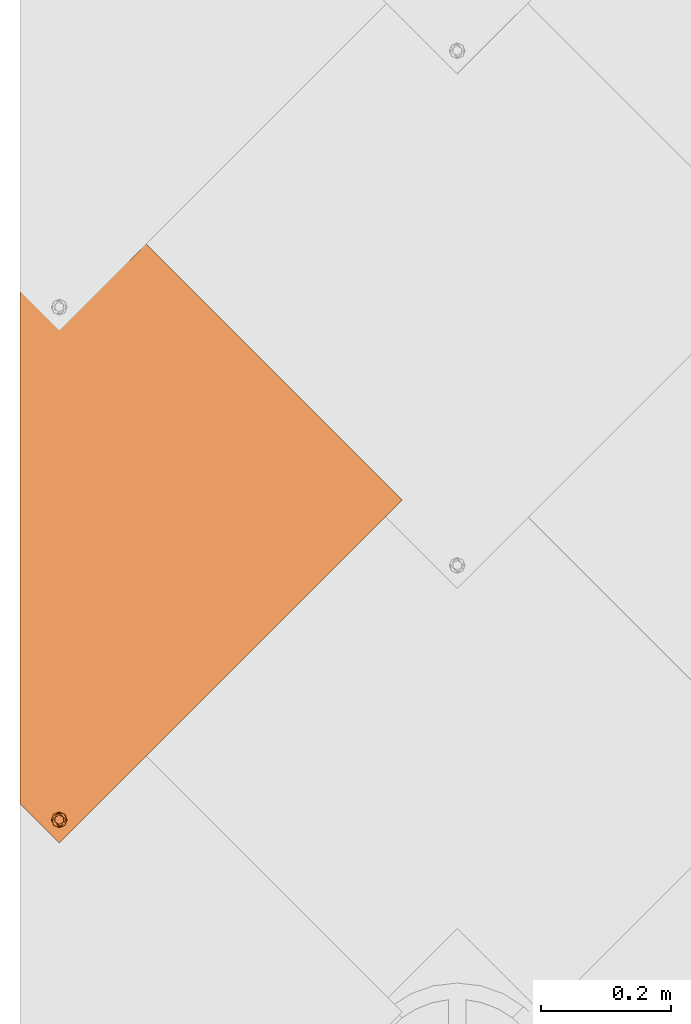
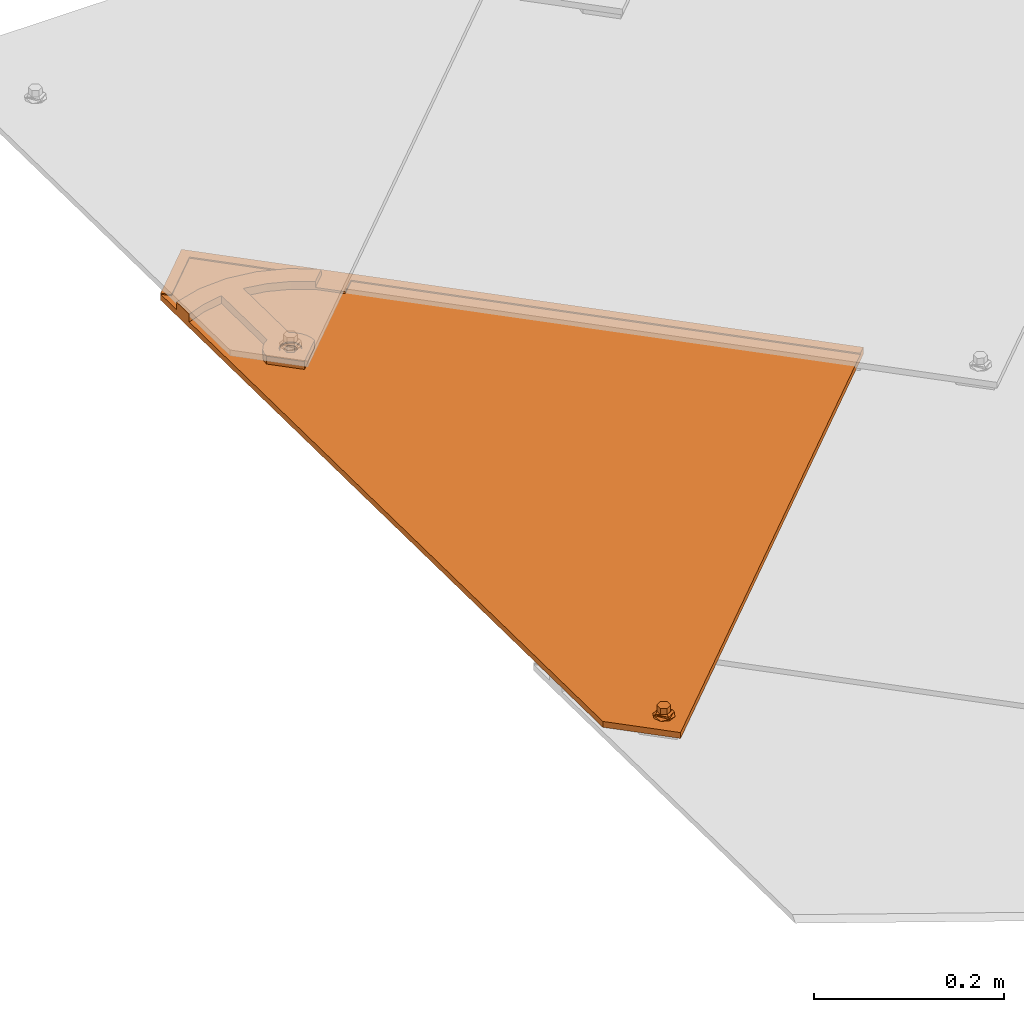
# One storey, part 79 of 151: 1 proxy.
"""IFC2X3 building model written with IfcOpenShell, lengths in millimetres."""

from ifc_helpers import new_model, entity, si_unit, converted_unit, derived_unit, direction, frame, origin, place, context, subcontext, project, spatial, faceted_brep, source, transform, mapped, material, material_list, type_object, type_shapes, element, save


model = new_model("IFC2X3")

# Units and contexts
model_context = context("Model", 3, precision=0.01, world=origin(), true_north=direction((6.12303176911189e-17, 1.0)))
body_context = subcontext(model_context, "Body", "Model", "MODEL_VIEW")
ifc_project = project(units=[si_unit("LENGTHUNIT", "METRE", prefix="MILLI"), si_unit("AREAUNIT", "SQUARE_METRE"), si_unit("VOLUMEUNIT", "CUBIC_METRE"), converted_unit("PLANEANGLEUNIT", "DEGREE", entity("IfcRatioMeasure", 0.0174532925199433), si_unit("PLANEANGLEUNIT", "RADIAN"), dimensions=[0, 0, 0, 0, 0, 0, 0]), si_unit("MASSUNIT", "GRAM", prefix="KILO"), derived_unit("MASSDENSITYUNIT", [(si_unit("MASSUNIT", "GRAM", prefix="KILO"), 1), (si_unit("LENGTHUNIT", "METRE"), -3)]), si_unit("TIMEUNIT", "SECOND"), si_unit("FREQUENCYUNIT", "HERTZ"), si_unit("THERMODYNAMICTEMPERATUREUNIT", "DEGREE_CELSIUS"), derived_unit("THERMALTRANSMITTANCEUNIT", [(si_unit("MASSUNIT", "GRAM", prefix="KILO"), 1), (si_unit("THERMODYNAMICTEMPERATUREUNIT", "KELVIN"), -1), (si_unit("TIMEUNIT", "SECOND"), -3)]), derived_unit("VOLUMETRICFLOWRATEUNIT", [(si_unit("LENGTHUNIT", "METRE"), 3), (si_unit("TIMEUNIT", "SECOND"), -1)]), si_unit("ELECTRICCURRENTUNIT", "AMPERE"), si_unit("ELECTRICVOLTAGEUNIT", "VOLT"), si_unit("POWERUNIT", "WATT"), si_unit("FORCEUNIT", "NEWTON", prefix="KILO"), si_unit("ILLUMINANCEUNIT", "LUX"), si_unit("LUMINOUSFLUXUNIT", "LUMEN"), si_unit("LUMINOUSINTENSITYUNIT", "CANDELA"), derived_unit("USERDEFINED", [(si_unit("MASSUNIT", "GRAM", prefix="KILO"), -1), (si_unit("LENGTHUNIT", "METRE"), -2), (si_unit("TIMEUNIT", "SECOND"), 3), (si_unit("LUMINOUSFLUXUNIT", "LUMEN"), 1)]), derived_unit("LINEARVELOCITYUNIT", [(si_unit("LENGTHUNIT", "METRE"), 1), (si_unit("TIMEUNIT", "SECOND"), -1)]), si_unit("PRESSUREUNIT", "PASCAL"), derived_unit("USERDEFINED", [(si_unit("LENGTHUNIT", "METRE"), -2), (si_unit("MASSUNIT", "GRAM", prefix="KILO"), 1), (si_unit("TIMEUNIT", "SECOND"), -2)])], contexts=[model_context])

# Site, building, storey
site_placement = place(None, origin())
site = spatial("IfcSite", under=ifc_project, at=site_placement, Name="Default", CompositionType="ELEMENT")
building_placement = place(site_placement, origin())
building = spatial("IfcBuilding", under=site, at=building_placement, CompositionType="ELEMENT")
storey_placement = place(building_placement, origin())
storey = spatial("IfcBuildingStorey", under=building, at=storey_placement, Name="Level 1", CompositionType="ELEMENT", Elevation=0.0)

# Proxy
ifc_material_1 = material(Name="Rubber - Sunstyle - Black")
ifc_material_2 = material(Name="Glass - Sunstyle - Tainted Black")
ifc_material_list_1 = material_list([ifc_material_1, ifc_material_2])
ifc_material_list_2 = material_list([ifc_material_1, ifc_material_2])
building_element_proxy_type = type_object("IfcBuildingElementProxyType", Name="Shingle Left - Black", PredefinedType="NOTDEFINED", material=ifc_material_list_2)
shared_shape = source(origin(), body_context, "Body", "Brep", [
    faceted_brep([(0.0, -484.792260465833, 4.00636906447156), (-5.77420283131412, -488.125530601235, 4.06219304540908), (-5.77420283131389, -487.757221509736, 26.0540623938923), (0.0, -484.423951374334, 25.9982384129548), (-5.77420283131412, -494.792070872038, 4.17384100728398), (-5.7742028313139, -494.42376178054, 26.1657103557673), (0.0, -498.12534100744, 4.22966498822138), (0.0, -497.757031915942, 26.2215343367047), (5.77420283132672, -494.792070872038, 4.17384100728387), (5.77420283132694, -494.42376178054, 26.1657103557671), (5.77420283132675, -488.125530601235, 4.06219304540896), (5.77420283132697, -487.757221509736, 26.0540623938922), (-8.60370416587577, -499.692989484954, 26.2539568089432), (0.0, -503.256260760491, 26.3136327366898), (-12.1674751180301, -491.090491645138, 26.1098863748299), (-8.60370416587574, -482.487993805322, 25.9658159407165), (0.0, -478.924722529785, 25.9061400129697), (8.60370416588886, -482.487993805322, 25.9658159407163), (12.1674751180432, -491.090491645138, 26.1098863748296), (8.60370416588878, -499.692989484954, 26.253956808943), (-11.324244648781, -488.795414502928, 28.4227283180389), (-9.75647455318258, -491.019476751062, 30.3502110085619), (0.0, -483.706401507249, 30.9829114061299), (0.0, -482.465903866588, 30.4025647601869), (0.0, -480.308353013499, 29.3931896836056), (0.0, -502.700216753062, 27.5886907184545), (0.0, -501.756640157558, 29.7523951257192), (0.0, -498.307264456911, 31.2274395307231), (0.0, -479.437758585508, 27.1991024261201), (-6.32324569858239, -494.657048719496, 31.1663074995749), (-6.32324569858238, -487.356617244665, 31.0440434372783), (11.3242446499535, -493.306834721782, 28.498283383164), (9.84888015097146, -492.093883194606, 30.2713428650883), (6.32324569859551, -487.356617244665, 31.0440434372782), (6.32324569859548, -494.657048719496, 31.1663074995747), (-6.32324569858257, -494.523020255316, 39.1691956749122), (0.0, -498.173235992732, 39.2303277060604), (0.0, -490.8728045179, 39.1080636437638), (-6.32324569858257, -487.222588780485, 39.0469316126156), (6.32324569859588, -494.523020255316, 39.1691956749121), (6.32324569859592, -487.222588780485, 39.0469316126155), (0.0, -483.572373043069, 38.9857995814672), (0.0, -491.458800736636, 4.11801702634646)], [[[0, 1, 2, 3]], [[1, 4, 5, 2]], [[4, 6, 7, 5]], [[6, 8, 9, 7]], [[8, 10, 11, 9]], [[10, 0, 3, 11]], [[12, 7, 13]], [[7, 12, 5]], [[14, 5, 12]], [[5, 14, 2]], [[15, 2, 14]], [[3, 2, 15]], [[15, 16, 3]], [[16, 17, 3]], [[11, 3, 17]], [[11, 17, 18]], [[9, 11, 18]], [[18, 19, 9]], [[7, 9, 19]], [[19, 13, 7]], [[20, 14, 12]], [[21, 22, 23, 24]], [[24, 20, 21]], [[25, 20, 12]], [[26, 27, 21]], [[15, 14, 20]], [[12, 13, 25]], [[20, 28, 15]], [[28, 20, 24]], [[21, 27, 29]], [[21, 29, 30]], [[26, 21, 20]], [[20, 25, 26]], [[15, 28, 16]], [[21, 30, 22]], [[31, 18, 17]], [[28, 31, 17]], [[32, 27, 26]], [[26, 31, 32]], [[26, 25, 31]], [[25, 19, 31]], [[17, 16, 28]], [[31, 19, 18]], [[24, 31, 28]], [[33, 34, 32]], [[23, 22, 33]], [[24, 32, 31]], [[27, 32, 34]], [[32, 23, 33]], [[19, 25, 13]], [[32, 24, 23]], [[35, 36, 37]], [[37, 38, 35]], [[36, 39, 37]], [[40, 37, 39]], [[37, 40, 41]], [[37, 41, 38]], [[42, 6, 4]], [[4, 1, 42]], [[1, 0, 42]], [[42, 8, 6]], [[0, 10, 42]], [[8, 42, 10]], [[22, 30, 38, 41]], [[30, 29, 35, 38]], [[29, 27, 36, 35]], [[27, 34, 39, 36]], [[34, 33, 40, 39]], [[33, 22, 41, 40]]]),
    faceted_brep([(0.0, 284.339364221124, 20.2838091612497), (0.0, 288.838732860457, 20.2084559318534), (-8.60370416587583, 287.902635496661, 20.224133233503), (8.60370416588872, 287.902635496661, 20.2241332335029), (6.64022859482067, 292.671933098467, 20.1442593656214), (12.1674751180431, 296.505133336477, 20.0800627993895), (6.64022859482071, 300.338333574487, 20.0158662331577), (8.6037041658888, 305.107631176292, 19.9359923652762), (0.0, 304.171533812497, 19.9516696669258), (0.0, 308.670902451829, 19.8763164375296), (-8.60370416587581, 305.107631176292, 19.9359923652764), (-6.64022859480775, 300.338333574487, 20.0158662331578), (-12.1674751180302, 296.505133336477, 20.0800627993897), (-6.64022859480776, 292.671933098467, 20.1442593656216), (-6.64022823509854, 300.070410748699, 4.01810959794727), (0.0, 303.90361077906, 3.95391303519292), (-6.64022823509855, 292.404010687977, 4.14650272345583), (0.0, 288.570810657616, 4.21069928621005), (6.64022823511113, 292.404010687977, 4.1465027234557), (6.64022823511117, 300.070410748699, 4.01810959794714), (-8.603704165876, 287.634712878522, 4.22637659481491), (0.0, 284.071441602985, 4.28605252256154), (-12.1674751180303, 296.237210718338, 4.08230616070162), (-8.60370416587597, 304.839708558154, 3.93823572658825), (0.0, 308.402979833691, 3.87855979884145), (8.60370416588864, 304.839708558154, 3.93823572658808), (12.1674751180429, 296.237210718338, 4.08230616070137), (8.60370416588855, 287.634712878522, 4.22637659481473)], [[[0, 1, 2]], [[1, 0, 3]], [[3, 4, 1]], [[4, 3, 5]], [[6, 4, 5]], [[5, 7, 6]], [[7, 8, 6]], [[8, 7, 9]], [[8, 9, 10]], [[10, 11, 8]], [[12, 11, 10]], [[2, 13, 12]], [[12, 13, 11]], [[13, 2, 1]], [[8, 11, 14, 15]], [[11, 13, 16, 14]], [[13, 1, 17, 16]], [[1, 4, 18, 17]], [[4, 6, 19, 18]], [[6, 8, 15, 19]], [[20, 17, 21]], [[17, 20, 16]], [[22, 16, 20]], [[14, 16, 22]], [[23, 14, 22]], [[15, 14, 23]], [[23, 24, 15]], [[24, 25, 15]], [[19, 15, 25]], [[19, 25, 26]], [[26, 18, 19]], [[26, 27, 18]], [[17, 18, 27]], [[27, 21, 17]], [[24, 23, 10, 9]], [[10, 23, 22, 12]], [[20, 21, 0, 2]], [[20, 2, 12, 22]], [[21, 27, 3, 0]], [[3, 27, 26, 5]], [[25, 24, 9, 7]], [[25, 7, 5, 26]]]),
    faceted_brep([(518.309865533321, -8.21171787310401, 16.4411500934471), (526.794551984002, 0.272968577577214, 16.299052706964), (526.794551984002, 0.298086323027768, 17.798842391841), (518.309865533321, -8.18660012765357, 17.9409397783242), (0.0, 509.952813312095, 7.76318349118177), (-51.6190674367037, 458.348219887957, 8.62743202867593), (-60.1037538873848, 466.832906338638, 8.48533464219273), (0.0, 526.919807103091, 7.47902856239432), (0.0, 526.944924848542, 8.97881824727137), (-60.1037538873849, 466.858024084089, 9.98512432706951), (-51.6190674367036, 458.373337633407, 10.1272217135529), (0.0, 509.977931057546, 9.26297317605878)], [[[0, 1, 2, 3]], [[1, 0, 4, 5, 6, 7]], [[2, 1, 7, 8]], [[3, 2, 8, 9, 10, 11]], [[0, 3, 11, 4]], [[5, 10, 9, 6]], [[8, 7, 6, 9]], [[4, 11, 10, 5]]]),
    faceted_brep([(3.08877637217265, 308.328619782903, 11.1398870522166), (0.0, 526.91980710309, 7.47902856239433), (-60.1037538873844, 466.832906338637, 8.48533464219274), (5.98294783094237, 307.129982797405, 11.1599612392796), (-0.0170521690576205, 308.737452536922, 11.133040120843), (8.46822920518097, 305.223226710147, 11.1918946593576), (10.3752526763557, 302.738293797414, 11.2335111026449), (11.5740577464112, 299.844528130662, 11.2819744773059), (526.794551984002, 0.272968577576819, 16.299052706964), (11.9829478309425, 296.739135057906, 11.3339820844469), (11.5740577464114, 293.63374198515, 11.3859896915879), (10.3752526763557, 290.739976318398, 11.4344530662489), (8.46822920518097, 288.255043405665, 11.4760695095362), (5.9829478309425, 286.348287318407, 11.5080029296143), (3.08877637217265, 285.149650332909, 11.5280771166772), (2.03352718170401, -483.329519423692, 24.3981910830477), (-60.1037538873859, -466.286969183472, 24.112770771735), (-0.0170521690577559, 284.74081757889, 11.5349240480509), (-3.12288071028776, 285.149650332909, 11.5280771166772), (-6.01705216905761, 286.348287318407, 11.5080029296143), (-8.50233354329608, 288.255043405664, 11.4760695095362), (-10.409357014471, 290.739976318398, 11.4344530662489), (-11.6081620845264, 293.63374198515, 11.3859896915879), (-12.0170521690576, 296.739135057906, 11.3339820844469), (-11.6081620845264, 299.844528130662, 11.2819744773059), (-10.4093570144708, 302.738293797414, 11.2335111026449), (-8.50233354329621, 305.223226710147, 11.1918946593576), (-6.01705216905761, 307.129982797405, 11.1599612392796), (-3.12288071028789, 308.328619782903, 11.1398870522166), (-0.0370251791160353, -483.056964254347, 24.3936264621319), (-2.10757753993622, -483.329519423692, 24.3981910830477), (-4.03702517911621, -484.128610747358, 24.411573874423), (-5.69387942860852, -485.399781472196, 24.4328628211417), (-6.96522840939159, -487.056403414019, 24.4606071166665), (-7.76443178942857, -488.985580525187, 24.4929160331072), (-8.03702517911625, -491.055842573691, 24.5275877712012), (-7.76443178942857, -493.126104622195, 24.5622595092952), (-6.96522840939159, -495.055281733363, 24.5945684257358), (0.0, -526.373869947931, 25.1190768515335), (-5.69387942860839, -496.711903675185, 24.6223127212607), (-4.03702517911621, -497.983074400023, 24.6436016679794), (-2.10757753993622, -498.782165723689, 24.6569844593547), (-0.0370251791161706, -499.054720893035, 24.6615490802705), (2.03352718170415, -498.782165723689, 24.6569844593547), (3.96297482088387, -497.983074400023, 24.6436016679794), (5.61982907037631, -496.711903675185, 24.6223127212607), (6.89117805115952, -495.055281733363, 24.5945684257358), (7.6903814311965, -493.126104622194, 24.5622595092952), (3.96297482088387, -484.128610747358, 24.411573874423), (5.61982907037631, -485.399781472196, 24.4328628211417), (6.89117805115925, -487.056403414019, 24.4606071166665), (7.6903814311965, -488.985580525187, 24.4929160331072), (7.96297482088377, -491.055842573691, 24.5275877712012), (-60.1037538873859, -466.412557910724, 16.6138223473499), (-6.96522840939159, -487.181992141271, 16.9616586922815), (-7.7644317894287, -489.111169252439, 16.9939676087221), (-5.69387942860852, -485.525370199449, 16.9339143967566), (-8.03702517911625, -491.181431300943, 17.0286393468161), (-7.76443178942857, -493.251693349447, 17.0633110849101), (-6.96522840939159, -495.180870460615, 17.0956200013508), (0.0, -526.499458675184, 17.6201284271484), (-4.03702517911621, -484.254199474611, 16.9126254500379), (-2.10757753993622, -483.455108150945, 16.8992426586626), (-0.0370251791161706, -483.182552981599, 16.8946780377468), (2.03352718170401, -483.455108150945, 16.8992426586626), (3.08877637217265, 285.024061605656, 4.02912869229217), (-0.0170521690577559, 284.615228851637, 4.03597562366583), (-3.12288071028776, 285.024061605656, 4.02912869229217), (-6.01705216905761, 286.222698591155, 4.00905450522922), (-8.50233354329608, 288.129454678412, 3.97712108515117), (-10.409357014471, 290.614387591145, 3.93550464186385), (-11.6081620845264, 293.508153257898, 3.88704126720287), (-60.1037538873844, 466.707317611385, 0.986386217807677), (-12.0170521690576, 296.613546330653, 3.83503366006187), (-11.6081620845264, 299.718939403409, 3.78302605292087), (-10.4093570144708, 302.612705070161, 3.73456267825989), (-8.50233354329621, 305.097637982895, 3.69294623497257), (-6.01705216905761, 307.004394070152, 3.66101281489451), (-3.12288071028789, 308.203031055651, 3.64093862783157), (-0.0170521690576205, 308.61186380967, 3.63409169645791), (3.08877637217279, 308.203031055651, 3.64093862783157), (0.0, 526.794218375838, -0.0199198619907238), (5.98294783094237, 307.004394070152, 3.66101281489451), (8.46822920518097, 305.097637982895, 3.69294623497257), (10.3752526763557, 302.612705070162, 3.73456267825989), (11.5740577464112, 299.718939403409, 3.78302605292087), (526.794551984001, 0.147379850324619, 8.8001042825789), (3.96297482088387, -484.254199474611, 16.9126254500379), (5.61982907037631, -485.525370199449, 16.9339143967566), (7.6903814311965, -493.251693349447, 17.0633110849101), (7.96297482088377, -491.181431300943, 17.0286393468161), (7.6903814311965, -489.111169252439, 16.9939676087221), (6.89117805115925, -487.181992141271, 16.9616586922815), (5.9829478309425, 286.222698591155, 4.00905450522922), (8.46822920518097, 288.129454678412, 3.97712108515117), (11.9829478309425, 296.613546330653, 3.83503366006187), (11.5740577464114, 293.508153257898, 3.88704126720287), (10.3752526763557, 290.614387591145, 3.93550464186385), (-5.69387942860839, -496.837492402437, 17.1233642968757), (-4.03702517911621, -498.108663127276, 17.1446532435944), (-2.10757753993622, -498.907754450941, 17.1580360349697), (-0.0370251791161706, -499.180309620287, 17.1626006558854), (2.03352718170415, -498.907754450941, 17.1580360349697), (3.96297482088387, -498.108663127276, 17.1446532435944), (5.61982907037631, -496.837492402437, 17.1233642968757), (6.89117805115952, -495.180870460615, 17.0956200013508)], [[[0, 1, 2]], [[0, 3, 1]], [[4, 0, 2]], [[1, 3, 5]], [[6, 1, 5]], [[7, 1, 6]], [[7, 8, 1]], [[9, 8, 7]], [[8, 9, 10]], [[8, 10, 11]], [[11, 12, 8]], [[12, 13, 8]], [[13, 14, 8]], [[14, 15, 8]], [[14, 16, 15]], [[16, 14, 17]], [[16, 17, 18]], [[16, 18, 19]], [[20, 16, 19]], [[20, 21, 16]], [[21, 22, 16]], [[23, 2, 22]], [[2, 16, 22]], [[23, 24, 2]], [[25, 2, 24]], [[25, 26, 2]], [[26, 27, 2]], [[28, 2, 27]], [[4, 2, 28]], [[16, 29, 15]], [[29, 16, 30]], [[30, 16, 31]], [[16, 32, 31]], [[32, 16, 33]], [[33, 16, 34]], [[35, 34, 16]], [[35, 16, 36]], [[37, 36, 16]], [[16, 38, 37]], [[39, 37, 38]], [[40, 39, 38]], [[41, 40, 38]], [[38, 42, 41]], [[42, 38, 43]], [[44, 43, 38]], [[44, 38, 45]], [[46, 45, 38]], [[47, 46, 38]], [[47, 38, 8]], [[48, 8, 15]], [[48, 49, 8]], [[50, 8, 49]], [[51, 8, 50]], [[52, 47, 8]], [[52, 8, 51]], [[53, 54, 55]], [[54, 53, 56]], [[53, 55, 57]], [[57, 58, 53]], [[58, 59, 53]], [[53, 59, 60]], [[61, 56, 53]], [[62, 61, 53]], [[62, 53, 63]], [[64, 63, 53]], [[53, 65, 64]], [[65, 53, 66]], [[66, 53, 67]], [[67, 53, 68]], [[69, 68, 53]], [[70, 69, 53]], [[71, 70, 53]], [[71, 53, 72]], [[73, 71, 72]], [[74, 73, 72]], [[75, 74, 72]], [[76, 75, 72]], [[72, 77, 76]], [[78, 77, 72]], [[79, 78, 72]], [[79, 72, 80]], [[80, 72, 81]], [[82, 80, 81]], [[81, 83, 82]], [[83, 81, 84]], [[84, 81, 85]], [[86, 85, 81]], [[64, 86, 87]], [[88, 87, 86]], [[60, 89, 86]], [[90, 86, 89]], [[90, 91, 86]], [[91, 92, 86]], [[88, 86, 92]], [[65, 86, 64]], [[65, 93, 86]], [[93, 94, 86]], [[86, 95, 85]], [[95, 86, 96]], [[97, 96, 86]], [[97, 86, 94]], [[98, 60, 59]], [[98, 99, 60]], [[99, 100, 60]], [[101, 60, 100]], [[60, 101, 102]], [[60, 102, 103]], [[103, 104, 60]], [[104, 105, 60]], [[105, 89, 60]], [[2, 1, 81, 72]], [[38, 16, 53, 60]], [[8, 38, 60, 86]], [[1, 8, 86, 81]], [[35, 57, 55, 34]], [[34, 55, 54, 33]], [[31, 32, 56, 61]], [[56, 32, 33, 54]], [[30, 31, 61, 62]], [[30, 62, 63, 29]], [[29, 63, 64, 15]], [[15, 64, 87, 48]], [[50, 49, 88, 92]], [[88, 49, 48, 87]], [[51, 50, 92, 91]], [[51, 91, 90, 52]], [[52, 90, 89, 47]], [[47, 89, 105, 46]], [[44, 45, 104, 103]], [[104, 45, 46, 105]], [[43, 44, 103, 102]], [[43, 102, 101, 42]], [[42, 101, 100, 41]], [[41, 100, 99, 40]], [[37, 39, 98, 59]], [[98, 39, 40, 99]], [[36, 37, 59, 58]], [[36, 58, 57, 35]], [[23, 73, 74, 24]], [[24, 74, 75, 25]], [[27, 26, 76, 77]], [[76, 26, 25, 75]], [[28, 27, 77, 78]], [[28, 78, 79, 4]], [[4, 79, 80, 0]], [[0, 80, 82, 3]], [[6, 5, 83, 84]], [[83, 5, 3, 82]], [[7, 6, 84, 85]], [[7, 85, 95, 9]], [[9, 95, 96, 10]], [[10, 96, 97, 11]], [[13, 12, 94, 93]], [[94, 12, 11, 97]], [[14, 13, 93, 65]], [[14, 65, 66, 17]], [[17, 66, 67, 18]], [[18, 67, 68, 19]], [[21, 20, 69, 70]], [[69, 20, 19, 68]], [[22, 21, 70, 71]], [[22, 71, 73, 23]], [[16, 2, 72, 53]]]),
    faceted_brep([(-60.2957264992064, 433.002673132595, 19.0533091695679), (-60.2957264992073, 406.276440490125, 19.5009070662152), (-37.4519584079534, 414.732964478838, 19.3592813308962), (-27.2461400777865, 442.315205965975, 18.8973474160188), (-13.4919726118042, 419.124350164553, 19.2857365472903), (7.02526451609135, 444.434715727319, 18.8618509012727), (13.1080273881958, 419.12435016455, 19.2857365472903), (13.1080273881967, 322.716549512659, 20.9003273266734), (-13.4919726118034, 322.716549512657, 20.9003273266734), (-0.191972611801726, 308.510747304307, 21.1382391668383), (-3.29780115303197, 308.101914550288, 21.145086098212), (-6.19197261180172, 306.90327756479, 21.1651602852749), (-18.8960787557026, 319.178501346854, 20.9595808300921), (-8.67725398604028, 304.996521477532, 21.197093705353), (-23.3966230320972, 314.545495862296, 21.0371721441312), (-10.584277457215, 302.511588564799, 21.2387101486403), (-26.776192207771, 309.041345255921, 21.1293529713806), (-11.7830825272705, 299.617822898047, 21.2871735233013), (-28.8715253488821, 302.931945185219, 21.231670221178), (-12.1919726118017, 296.512429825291, 21.3391811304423), (-29.5814006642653, 296.512429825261, 21.3391811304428), (-11.7830825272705, 293.407036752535, 21.3911887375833), (-10.5842774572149, 290.513271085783, 21.4396521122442), (-8.67725398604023, 288.028338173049, 21.4812685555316), (-0.191972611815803, 267.127122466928, 21.8313119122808), (-6.19197261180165, 286.121582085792, 21.5132019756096), (-3.2978011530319, 284.922945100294, 21.5332761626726), (-0.19197261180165, 284.514112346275, 21.5401230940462), (2.9138559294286, 284.922945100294, 21.5332761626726), (5.80802738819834, 286.121582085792, 21.5132019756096), (8.29330876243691, 288.028338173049, 21.4812685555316), (29.197455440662, 296.512429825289, 21.3391811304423), (10.2003322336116, 290.513271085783, 21.4396521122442), (11.3991373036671, 293.407036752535, 21.3911887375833), (11.8080273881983, 296.512429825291, 21.3391811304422), (28.4875801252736, 302.931945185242, 21.2316702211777), (11.3991373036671, 299.617822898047, 21.2871735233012), (26.3922469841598, 309.041345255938, 21.1293529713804), (10.2003322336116, 302.511588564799, 21.2387101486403), (23.0126778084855, 314.545495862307, 21.037172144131), (8.29330876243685, 304.996521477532, 21.197093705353), (18.5121335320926, 319.178501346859, 20.959580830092), (5.80802738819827, 306.90327756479, 21.1651602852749), (2.91385592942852, 308.101914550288, 21.145086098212), (40.9707248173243, 439.265481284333, 18.9484227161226), (38.5777701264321, 414.309469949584, 19.3663738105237), (73.0571986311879, 427.0409551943, 19.1531531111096), (62.7323605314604, 404.905836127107, 19.523861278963), (84.7524233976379, 391.232440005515, 19.7528566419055), (101.835599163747, 408.313220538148, 19.4667960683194), (-10.5842774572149, 290.345819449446, 11.4410542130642), (-29.5814006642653, 296.344978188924, 11.3405832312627), (-11.7830825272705, 293.239585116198, 11.3925908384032), (-8.67725398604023, 287.860886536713, 11.4826706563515), (-0.191972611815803, 266.959670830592, 11.8327140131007), (-6.19197261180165, 285.954130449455, 11.5146040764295), (-3.2978011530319, 284.755493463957, 11.5346782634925), (-0.19197261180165, 284.346660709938, 11.5415251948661), (2.9138559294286, 284.755493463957, 11.5346782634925), (5.80802738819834, 285.954130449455, 11.5146040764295), (8.29330876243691, 287.860886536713, 11.4826706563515), (29.197455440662, 296.344978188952, 11.3405832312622), (10.2003322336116, 290.345819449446, 11.4410542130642), (11.3991373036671, 293.239585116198, 11.3925908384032), (11.8080273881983, 296.344978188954, 11.3405832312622), (28.4875801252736, 302.764493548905, 11.2330723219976), (11.3991373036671, 299.45037126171, 11.2885756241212), (26.3922469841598, 308.873893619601, 11.1307550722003), (10.2003322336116, 302.344136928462, 11.2401122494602), (23.0126778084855, 314.378044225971, 11.038574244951), (8.29330876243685, 304.829069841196, 11.1984958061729), (18.5121335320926, 319.011049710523, 10.960982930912), (5.80802738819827, 306.735825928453, 11.1665623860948), (13.1080273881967, 322.549097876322, 10.9017294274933), (2.91385592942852, 307.934462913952, 11.1464881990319), (-0.191972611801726, 308.34329566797, 11.1396412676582), (-13.4919726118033, 322.54909787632, 10.9017294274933), (-3.29780115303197, 307.934462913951, 11.1464881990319), (-6.19197261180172, 306.735825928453, 11.1665623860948), (-18.8960787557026, 319.011049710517, 10.9609829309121), (-8.67725398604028, 304.829069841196, 11.1984958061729), (-23.3966230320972, 314.37804422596, 11.0385742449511), (-10.584277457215, 302.344136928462, 11.2401122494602), (-26.776192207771, 308.873893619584, 11.1307550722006), (-11.7830825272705, 299.45037126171, 11.2885756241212), (-28.8715253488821, 302.764493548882, 11.233072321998), (-12.1919726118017, 296.344978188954, 11.3405832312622), (-13.4919726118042, 418.956898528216, 9.28713864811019), (13.1080273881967, 418.956898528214, 9.28713864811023), (7.02526451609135, 444.267264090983, 8.86325300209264), (-27.2461400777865, 442.147754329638, 8.89874951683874), (-37.4519584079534, 414.565512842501, 9.36068343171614), (-60.2957264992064, 432.835221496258, 9.05471127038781), (-60.2957264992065, 406.108988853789, 9.5023091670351), (40.9707248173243, 439.098029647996, 8.94982481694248), (38.5777701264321, 414.142018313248, 9.36777591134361), (73.0571986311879, 426.873503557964, 9.15455521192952), (62.7323605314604, 404.738384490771, 9.5252633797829), (84.9699227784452, 391.282457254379, 9.75061668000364), (101.363550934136, 407.672574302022, 9.47612300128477), (101.835599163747, 408.145768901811, 9.46819816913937), (107.666988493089, 402.274283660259, 9.56653093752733), (113.684870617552, 396.559480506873, 9.66223967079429), (108.027097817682, 368.228515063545, 10.1367128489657), (125.024248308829, 385.223282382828, 9.85209278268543), (84.7524233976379, 391.064988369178, 9.75425874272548), (125.024248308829, 385.265145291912, 12.3517422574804), (113.684870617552, 396.601343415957, 12.1618891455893), (107.666988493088, 402.316146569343, 12.0661804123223), (101.362944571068, 407.715043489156, 11.975762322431), (84.9693798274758, 391.324863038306, 12.2502570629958), (108.027097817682, 368.270377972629, 12.6363623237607)], [[[0, 1, 2]], [[0, 2, 3]], [[2, 4, 3]], [[3, 4, 5]], [[5, 4, 6]], [[7, 6, 4]], [[7, 4, 8]], [[9, 7, 8]], [[9, 8, 10]], [[10, 8, 11]], [[12, 11, 8]], [[11, 12, 13]], [[14, 13, 12]], [[13, 14, 15]], [[15, 14, 16]], [[17, 15, 16]], [[18, 17, 16]], [[18, 19, 17]], [[19, 18, 20]], [[20, 21, 19]], [[20, 22, 21]], [[22, 20, 23]], [[23, 20, 24]], [[24, 25, 23]], [[26, 25, 24]], [[24, 27, 26]], [[28, 27, 24]], [[28, 24, 29]], [[30, 29, 24]], [[30, 24, 31]], [[31, 32, 30]], [[33, 32, 31]], [[31, 34, 33]], [[35, 34, 31]], [[34, 35, 36]], [[36, 35, 37]], [[36, 37, 38]], [[38, 37, 39]], [[39, 40, 38]], [[39, 41, 40]], [[7, 42, 41]], [[40, 41, 42]], [[42, 7, 43]], [[43, 7, 9]], [[44, 5, 6]], [[44, 6, 45]], [[45, 46, 44]], [[46, 45, 47]], [[47, 48, 46]], [[49, 46, 48]], [[50, 51, 52]], [[51, 50, 53]], [[54, 51, 53]], [[53, 55, 54]], [[56, 54, 55]], [[57, 54, 56]], [[57, 58, 54]], [[58, 59, 54]], [[60, 54, 59]], [[60, 61, 54]], [[60, 62, 61]], [[62, 63, 61]], [[63, 64, 61]], [[64, 65, 61]], [[65, 64, 66]], [[66, 67, 65]], [[68, 67, 66]], [[67, 68, 69]], [[69, 68, 70]], [[71, 69, 70]], [[71, 70, 72]], [[72, 73, 71]], [[72, 74, 73]], [[75, 73, 74]], [[76, 73, 75]], [[77, 76, 75]], [[76, 77, 78]], [[79, 76, 78]], [[78, 80, 79]], [[81, 79, 80]], [[81, 80, 82]], [[81, 82, 83]], [[82, 84, 83]], [[84, 85, 83]], [[86, 85, 84]], [[52, 51, 86]], [[85, 86, 51]], [[73, 76, 87]], [[88, 73, 87]], [[88, 87, 89]], [[90, 89, 87]], [[87, 91, 90]], [[91, 92, 90]], [[93, 92, 91]], [[88, 89, 94]], [[88, 94, 95]], [[96, 95, 94]], [[96, 97, 95]], [[98, 97, 96]], [[96, 99, 98]], [[96, 100, 99]], [[98, 99, 101]], [[102, 98, 101]], [[98, 102, 103]], [[104, 103, 102]], [[105, 97, 98]], [[8, 4, 87, 76]], [[12, 8, 76, 79]], [[14, 12, 79, 81]], [[81, 83, 16, 14]], [[18, 16, 83, 85]], [[20, 18, 85, 51]], [[24, 20, 51, 54]], [[31, 24, 54, 61]], [[35, 31, 61, 65]], [[37, 35, 65, 67]], [[67, 69, 39, 37]], [[41, 39, 69, 71]], [[7, 41, 71, 73]], [[6, 7, 73, 88]], [[46, 49, 100, 96]], [[44, 46, 96, 94]], [[94, 89, 5, 44]], [[3, 5, 89, 90]], [[3, 90, 92, 0]], [[19, 86, 84, 17]], [[17, 84, 82, 15]], [[11, 13, 80, 78]], [[82, 80, 13, 15]], [[10, 11, 78, 77]], [[75, 9, 10, 77]], [[43, 74, 72, 42]], [[42, 72, 70, 40]], [[36, 38, 68, 66]], [[70, 68, 38, 40]], [[34, 36, 66, 64]], [[43, 9, 75, 74]], [[34, 64, 63, 33]], [[33, 63, 62, 32]], [[29, 30, 60, 59]], [[62, 60, 30, 32]], [[28, 29, 59, 58]], [[57, 27, 28, 58]], [[26, 56, 55, 25]], [[25, 55, 53, 23]], [[21, 22, 50, 52]], [[53, 50, 22, 23]], [[19, 21, 52, 86]], [[26, 27, 57, 56]], [[106, 107, 108, 109, 110, 111]], [[107, 106, 104, 102]], [[106, 111, 103, 104]], [[107, 102, 101, 108]], [[101, 99, 109]], [[101, 109, 108]], [[111, 110, 98, 103]], [[48, 110, 109]], [[110, 48, 105]], [[49, 48, 109, 100]], [[105, 98, 110]], [[99, 100, 109]], [[93, 91, 2, 1]], [[87, 4, 2, 91]], [[88, 95, 45, 6]], [[95, 97, 47, 45]], [[97, 105, 48, 47]], [[1, 0, 92, 93]]]),
])
type_shapes(building_element_proxy_type, [shared_shape])
proxy_placement = place(storey_placement, frame((-18987.019352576, 15862.795306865, 0.0)))
element("IfcBuildingElementProxy", 1, at=proxy_placement, inside=storey, type_object=building_element_proxy_type, material=ifc_material_list_1, Name="Roofing_Panels_SunStyle_Tile_Shingle-Left:Shingle Left - Black", ObjectType="Roofing_Panels_SunStyle_Tile_Shingle-Left:Shingle Left - Black", context=body_context, shape_type="MappedRepresentation", body=[
    mapped(shared_shape, transform((0.0, 0.0, 0.0), scale=1.0)),
])

save(model, "model.ifc")
